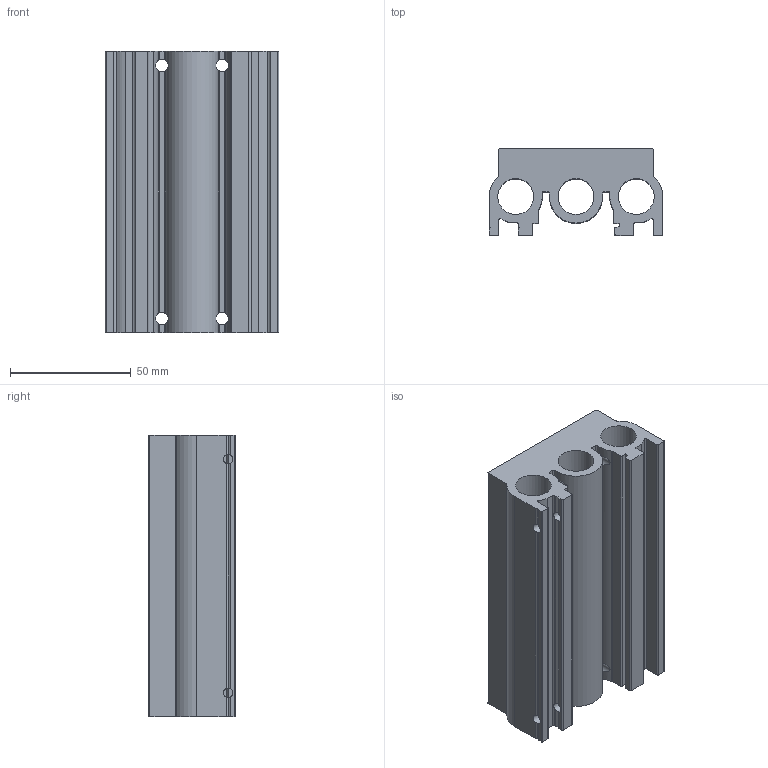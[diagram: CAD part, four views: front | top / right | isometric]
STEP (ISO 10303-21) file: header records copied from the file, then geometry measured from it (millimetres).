
FILE_DESCRIPTION(/* description */ ('COLLETTORE G1/4" 3 POSTI (TECNO-ECO)'),/* implementation_level */ '2;1');
FILE_NAME(/* name */ 'I:\Area Tecnica\Disegni\VARIE-3D\Componenti\T400\T424\T424_##\T424_03.stp',/* time_stamp */ '2015-09-23T13:41:27+02:00',/* author */ ('maniean1'),/* organization */ (''),/* preprocessor_version */ 'ST-DEVELOPER v15.2',/* originating_system */ 'Autodesk Inventor 2014',/* authorisation */ '');
FILE_SCHEMA (('AUTOMOTIVE_DESIGN { 1 0 10303 214 3 1 1 }'));
Length unit declared in the file: millimetre
Products named in the file (1): T424_03
Bounding box: 72 x 36 x 117 mm (x, y, z)
Volume: 166693.1 mm3; surface area: 57975.7 mm2
Topology: 1 solids, 1 shells, 171 faces, 458 edges, 301 vertices
Faces by surface type: cylinder 81, plane 81, cone 9
Full cylindrical faces by diameter (mm): 4 x13, 5.25 x4, 8 x9, 9 x4, 14.9 x3, 16.8 x9
Entity records: 5738 total; most frequent: CARTESIAN_POINT 1515, DIRECTION 880, ORIENTED_EDGE 798, EDGE_CURVE 399, AXIS2_PLACEMENT_3D 344, VERTEX_POINT 293, EDGE_LOOP 274, LINE 192
